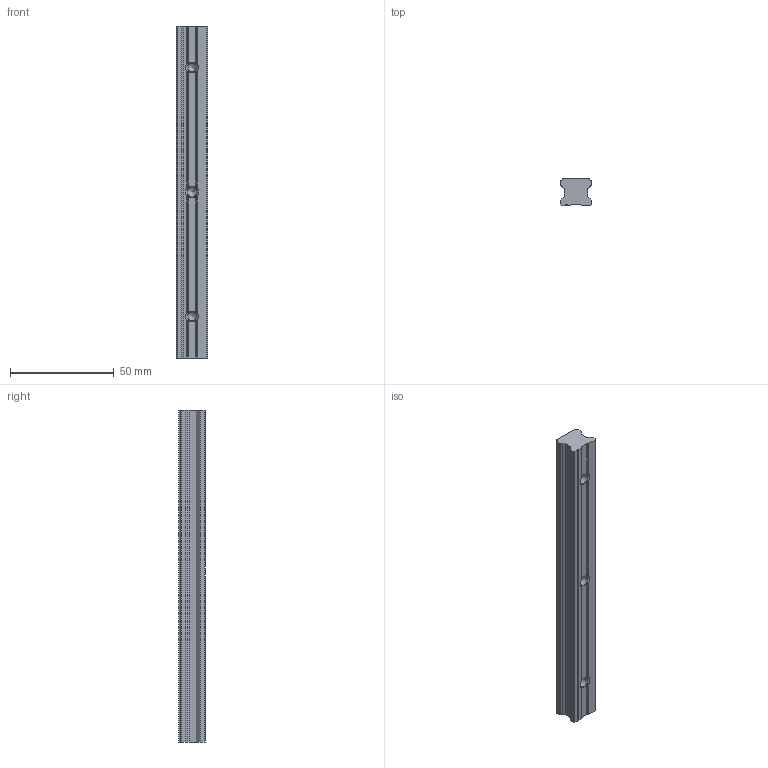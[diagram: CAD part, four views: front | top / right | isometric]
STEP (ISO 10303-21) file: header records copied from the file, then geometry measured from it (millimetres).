
FILE_DESCRIPTION (( 'STEP AP203' ), '1' );
FILE_NAME ('SBI 15 - B.STEP', '2014-08-05T09:30:16', ( 'star' ), ( '' ), 'SwSTEP 2.0', 'SolidWorks 2013', '' );
FILE_SCHEMA (( 'CONFIG_CONTROL_DESIGN' ));
Length unit declared in the file: millimetre
Products named in the file (1): SBI 15 - B
Bounding box: 15 x 13 x 160 mm (x, y, z)
Volume: 26544.3 mm3; surface area: 10006.6 mm2
Topology: 1 solids, 1 shells, 81 faces, 222 edges, 137 vertices
Faces by surface type: plane 36, cylinder 27, cone 18
Entity records: 2627 total; most frequent: CARTESIAN_POINT 531, ORIENTED_EDGE 432, DIRECTION 416, EDGE_CURVE 216, AXIS2_PLACEMENT_3D 142, VERTEX_POINT 137, VECTOR 132, LINE 132
